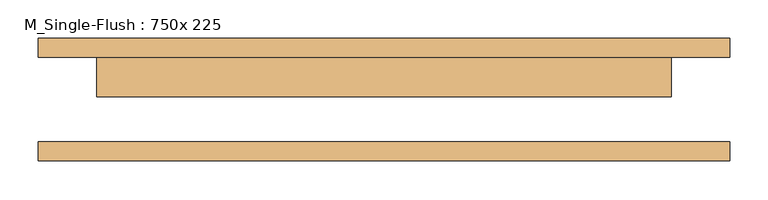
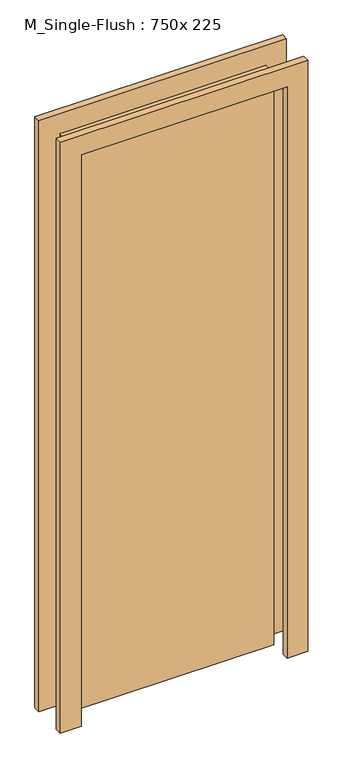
"""IFC4 building model written with IfcOpenShell, lengths in millimetres: door geometry, M_Single-Flush : 750x 225."""

import ifcopenshell
import ifcopenshell.guid

model = None  # the IFC model being written
_history = None  # IfcOwnerHistory: only IFC2X3 demands one
_inside = {}  # id of a spatial element -> (the spatial element, [elements in it])
_under = {}  # id of a project, library or spatial element -> (it, [spatial elements below it])
_declared = {}  # id of a project -> (the project, [libraries it declares])
_typed = {}  # id of a type object -> (the type object, [elements of that type])
_made_of = {}  # id of a material, layer set ... -> (it, [elements and type objects made of it])


def new_model(schema):
    """Start an empty IFC model of exactly this schema.

    Asked for "IFC4X3", IfcOpenShell would pick the latest addendum, in which some entities
    have other attributes; the version numbers below select the first issue.
    IFC2X3 requires an IfcOwnerHistory on every rooted entity: one is made here for all.
    """
    global model, _history
    if schema == "IFC4X3":
        model = ifcopenshell.file(schema_version=(4, 3, 0, 0))
    else:
        model = ifcopenshell.file(schema=schema)
    _inside.clear()
    _under.clear()
    _declared.clear()
    _typed.clear()
    _made_of.clear()
    _history = None
    if model.schema == "IFC2X3":
        org = make("IfcOrganization", Name="unknown")
        user = make(
            "IfcPersonAndOrganization",
            ThePerson=make("IfcPerson", FamilyName="unknown"),
            TheOrganization=org,
        )
        app = make(
            "IfcApplication",
            ApplicationDeveloper=org,
            Version="unknown",
            ApplicationFullName="unknown",
            ApplicationIdentifier="unknown",
        )
        _history = make(
            "IfcOwnerHistory",
            OwningUser=user,
            OwningApplication=app,
            ChangeAction="ADDED",
            CreationDate=0,
        )
    return model


def make(cls, **values):
    """One entity of the class cls with the attributes given. An attribute that is None is left unset."""
    return model.create_entity(
        cls, **{name: value for name, value in values.items() if value is not None}
    )


def rooted(cls, **values):
    """An entity with a GlobalId (a new one), such as an element, a storey or a relation."""
    return make(cls, GlobalId=ifcopenshell.guid.new(), OwnerHistory=_history, **values)


def si_unit(unit_type, name, prefix=None):
    """IfcSIUnit, for example si_unit("LENGTHUNIT", "METRE", prefix="MILLI")."""
    return make("IfcSIUnit", UnitType=unit_type, Prefix=prefix, Name=name)


def assignment(units):
    """IfcUnitAssignment: the units of a project."""
    return None if units is None else make("IfcUnitAssignment", Units=units)


def point(xyz):
    """IfcCartesianPoint."""
    return None if xyz is None else make("IfcCartesianPoint", Coordinates=xyz)


def direction(xyz):
    """IfcDirection."""
    return None if xyz is None else make("IfcDirection", DirectionRatios=xyz)


def frame(location, z_axis=None, x_axis=None):
    """IfcAxis2Placement3D, a coordinate frame: its origin and axes. An axis left out is left unset."""
    return make(
        "IfcAxis2Placement3D",
        Location=point(location),
        Axis=direction(z_axis),
        RefDirection=direction(x_axis),
    )


def origin():
    """The frame at (0, 0, 0) with its axes left unset."""
    return frame((0.0, 0.0, 0.0))


def origin_with_axes():
    """The frame at (0, 0, 0) with the z axis (0, 0, 1) and the x axis (1, 0, 0) written out."""
    return frame((0.0, 0.0, 0.0), z_axis=(0.0, 0.0, 1.0), x_axis=(1.0, 0.0, 0.0))


def place(relative_to, where):
    """IfcLocalPlacement: puts the frame where relative to a parent placement (None: the world)."""
    return make(
        "IfcLocalPlacement", PlacementRelTo=relative_to, RelativePlacement=where
    )


def context(
    kind, dimensions, precision=None, world=None, true_north=None, identifier=None
):
    """IfcGeometricRepresentationContext, for example the 3D "Model" context."""
    return make(
        "IfcGeometricRepresentationContext",
        ContextIdentifier=identifier,
        ContextType=kind,
        CoordinateSpaceDimension=dimensions,
        Precision=precision,
        WorldCoordinateSystem=world,
        TrueNorth=true_north,
    )


def project(units=None, contexts=None):
    """IfcProject with its units and contexts."""
    return rooted(
        "IfcProject",
        Name="project",
        RepresentationContexts=contexts,
        UnitsInContext=assignment(units),
    )


def spatial(cls, under=None, at=None, **own):
    """A site, building, storey or space (cls), placed at a placement, below another one or the project."""
    s = rooted(cls, ObjectPlacement=at, **own)
    if under is not None:
        _under.setdefault(under.id(), (under, []))[1].append(s)
    return s


def polyline(points):
    """IfcPolyline through the points."""
    return make("IfcPolyline", Points=[point(p) for p in points])


def outline(outer, holes=None, kind="AREA"):
    """IfcArbitraryClosedProfileDef: a profile drawn as a closed curve; with holes, ...WithVoids."""
    if holes is None:
        return make("IfcArbitraryClosedProfileDef", ProfileType=kind, OuterCurve=outer)
    return make(
        "IfcArbitraryProfileDefWithVoids",
        ProfileType=kind,
        OuterCurve=outer,
        InnerCurves=holes,
    )


def extrude(swept, where, along, depth):
    """IfcExtrudedAreaSolid: the profile swept, set in the frame where, extruded along a direction by depth."""
    return make(
        "IfcExtrudedAreaSolid",
        SweptArea=swept,
        Position=where,
        ExtrudedDirection=direction(along),
        Depth=depth,
    )


def shape(context_of_items, identifier, shape_type, items):
    """IfcShapeRepresentation: the items that make up one representation, for example the "Body"."""
    return make(
        "IfcShapeRepresentation",
        ContextOfItems=context_of_items,
        RepresentationIdentifier=identifier,
        RepresentationType=shape_type,
        Items=items,
    )


def source(mapping_origin, context_of_items, identifier, shape_type, items):
    """IfcRepresentationMap: a shape defined once, which mapped items show again and again."""
    return make(
        "IfcRepresentationMap",
        MappingOrigin=mapping_origin,
        MappedRepresentation=shape(context_of_items, identifier, shape_type, items),
    )


def transform(
    local_origin,
    x_axis=None,
    y_axis=None,
    z_axis=None,
    scale=None,
    scale2=None,
    scale3=None,
    uniform=True,
):
    """IfcCartesianTransformationOperator3D, or its non-uniform kind. x_axis, y_axis, z_axis: its Axis1, 2, 3."""
    if uniform:
        return make(
            "IfcCartesianTransformationOperator3D",
            Axis1=direction(x_axis),
            Axis2=direction(y_axis),
            LocalOrigin=point(local_origin),
            Scale=scale,
            Axis3=direction(z_axis),
        )
    return make(
        "IfcCartesianTransformationOperator3DnonUniform",
        Axis1=direction(x_axis),
        Axis2=direction(y_axis),
        LocalOrigin=point(local_origin),
        Scale=scale,
        Axis3=direction(z_axis),
        Scale2=scale2,
        Scale3=scale3,
    )


def mapped(mapping_source, mapping_target):
    """IfcMappedItem: shows the shape of a source again, moved by a transform."""
    return make(
        "IfcMappedItem", MappingSource=mapping_source, MappingTarget=mapping_target
    )


def made_of(thing, what):
    """Note that an element or type object is made of a material, layer set ...; save() writes the relation."""
    if what is not None:
        _made_of.setdefault(what.id(), (what, []))[1].append(thing)
    return thing


def element(
    cls,
    number,
    at=None,
    inside=None,
    cuts=None,
    type_object=None,
    material=None,
    context=None,
    identifier="Body",
    shape_type=None,
    held_by="IfcProductDefinitionShape",
    body=None,
    shapes=None,
    **own,
):
    """One element of the class cls, such as IfcWall. Its Tag is "e" and its number.

    at: its placement. inside: the storey or other place that contains it. cuts: it is an
    opening in that element (IfcRelVoidsElement). A single representation is given by context,
    identifier, shape_type and body (its items); several are given by shapes. held_by: the class
    of the entity that holds the representations. save() writes the other relations.
    """
    e = rooted(cls, Tag="e%d" % number, ObjectPlacement=at, **own)
    if body is not None:
        shapes = [shape(context, identifier, shape_type, body)]
    if shapes is not None:
        e.Representation = make(held_by, Representations=shapes)
    if inside is not None:
        _inside.setdefault(inside.id(), (inside, []))[1].append(e)
    if cuts is not None:
        rooted(
            "IfcRelVoidsElement", RelatingBuildingElement=cuts, RelatedOpeningElement=e
        )
    if type_object is not None:
        _typed.setdefault(type_object.id(), (type_object, []))[1].append(e)
    return made_of(e, material)


def aggregate(whole, parts):
    """IfcRelAggregates: a whole, such as a stair, and the parts it consists of."""
    return rooted("IfcRelAggregates", RelatingObject=whole, RelatedObjects=parts)


def save(model, path):
    """Write the relations noted so far, then the file.

    IfcRelAggregates (storeys below a building ...), IfcRelContainedInSpatialStructure (elements
    in a storey), IfcRelDefinesByType, IfcRelAssociatesMaterial and IfcRelDeclares: one each for
    every whole, place, type object, material and project.
    """
    for whole, parts in _under.values():
        aggregate(whole, parts)
    for where, things in _inside.values():
        rooted(
            "IfcRelContainedInSpatialStructure",
            RelatedElements=things,
            RelatingStructure=where,
        )
    for kind, things in _typed.values():
        rooted("IfcRelDefinesByType", RelatedObjects=things, RelatingType=kind)
    for what, things in _made_of.values():
        rooted("IfcRelAssociatesMaterial", RelatedObjects=things, RelatingMaterial=what)
    for by, libraries in _declared.values():
        rooted("IfcRelDeclares", RelatingContext=by, RelatedDefinitions=libraries)
    model.write(path)


def m_single_flush_750x_225_ddc8b89c(model_context):
    return source(origin(), model_context, "Body", "SweptSolid", [
        extrude(outline(polyline([(2276.0, -451.0), (0.0, -451.0), (0.0, -375.0), (2200.0, -375.0), (2200.0, 375.0), (0.0, 375.0), (0.0, 451.0), (2276.0, 451.0), (2276.0, -451.0)])), frame((0.0, 55.0, 0.0), z_axis=(0.0, 1.0, 0.0), x_axis=(0.0, 0.0, 1.0)), (0.0, 0.0, 1.0), 25.0),
        extrude(outline(polyline([(2276.0, 451.0), (2276.0, -451.0), (0.0, -451.0), (0.0, -375.0), (2200.0, -375.0), (2200.0, 375.0), (0.0, 375.0), (0.0, 451.0), (2276.0, 451.0)])), frame((0.0, -80.0, 0.0), z_axis=(0.0, 1.0, 0.0), x_axis=(0.0, 0.0, 1.0)), (0.0, 0.0, 1.0), 25.0),
        extrude(outline(polyline([(375.0, 4.0), (-375.0, 4.0), (-375.0, 55.0), (375.0, 55.0), (375.0, 4.0)])), origin_with_axes(), (0.0, 0.0, 1.0), 2200.0),
    ])


if __name__ == "__main__":
    model = new_model("IFC4")
    model_context = context("Model", 3, world=origin())
    ifc_project = project(units=[si_unit("LENGTHUNIT", "METRE", prefix="MILLI")], contexts=[model_context])
    site = spatial("IfcSite", under=ifc_project)
    building = spatial("IfcBuilding", under=site)
    placement = place(None, origin())
    m_single_flush_750x_225_shape = m_single_flush_750x_225_ddc8b89c(model_context)
    element("IfcDoor", 1, ObjectType="M_Single-Flush : 750x 225", at=placement, inside=building, context=model_context, shape_type="MappedRepresentation", body=[
        mapped(m_single_flush_750x_225_shape, transform((0.0, 0.0, 0.0), x_axis=(1.0, 0.0, 0.0), y_axis=(0.0, 1.0, 0.0), z_axis=(0.0, 0.0, 1.0))),
    ])
    save(model, "model.ifc")
